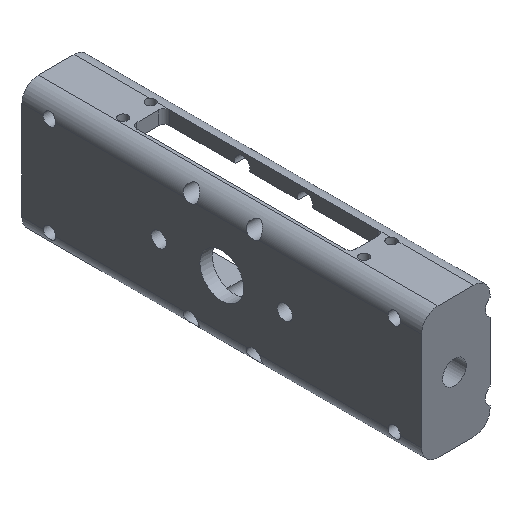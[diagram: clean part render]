
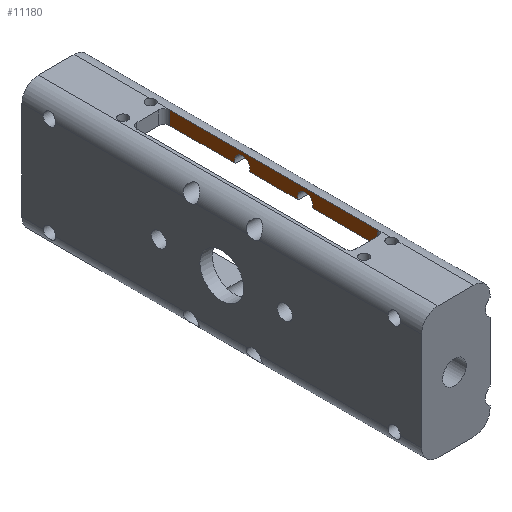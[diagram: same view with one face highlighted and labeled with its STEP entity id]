
A CAD part, isometric view. The second image highlights one B-rep face of the part: STEP entity #11180.
In plain terms, the highlighted planar face has unit normal (-1, 0, 0).
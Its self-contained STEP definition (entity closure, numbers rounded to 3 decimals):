
#876 = CYLINDRICAL_SURFACE('',#877,6.);
#877 = AXIS2_PLACEMENT_3D('',#878,#879,#880);
#878 = CARTESIAN_POINT('',(35.,-73.,18.));
#879 = DIRECTION('',(-0.,1.,0.));
#880 = DIRECTION('',(1.,0.,-0.));
#2562 = PLANE('',#2563);
#2563 = AXIS2_PLACEMENT_3D('',#2564,#2565,#2566);
#2564 = CARTESIAN_POINT('',(20.5,-63.,19.));
#2565 = DIRECTION('',(0.,0.,1.));
#2566 = DIRECTION('',(1.,0.,-0.));
#3738 = PLANE('',#3739);
#3739 = AXIS2_PLACEMENT_3D('',#3740,#3741,#3742);
#3740 = CARTESIAN_POINT('',(20.5,-63.,19.));
#3741 = DIRECTION('',(0.,0.,1.));
#3742 = DIRECTION('',(1.,0.,-0.));
#8088 = VERTEX_POINT('',#8089);
#8089 = CARTESIAN_POINT('',(35.,-38.,24.));
#8110 = EDGE_CURVE('',#8088,#8111,#8113,.T.);
#8111 = VERTEX_POINT('',#8112);
#8112 = CARTESIAN_POINT('',(35.,38.,24.));
#8113 = SURFACE_CURVE('',#8114,(#8118,#8125),.PCURVE_S1.);
#8114 = LINE('',#8115,#8116);
#8115 = CARTESIAN_POINT('',(35.,-73.,24.));
#8116 = VECTOR('',#8117,1.);
#8117 = DIRECTION('',(-0.,1.,0.));
#8118 = PCURVE('',#876,#8119);
#8119 = DEFINITIONAL_REPRESENTATION('',(#8120),#8124);
#8120 = LINE('',#8121,#8122);
#8121 = CARTESIAN_POINT('',(-1.571,0.));
#8122 = VECTOR('',#8123,1.);
#8123 = DIRECTION('',(-0.,1.));
#8124 = ( GEOMETRIC_REPRESENTATION_CONTEXT(2) 
PARAMETRIC_REPRESENTATION_CONTEXT() REPRESENTATION_CONTEXT('2D SPACE',''
  ) );
#8125 = PCURVE('',#8126,#8131);
#8126 = PLANE('',#8127);
#8127 = AXIS2_PLACEMENT_3D('',#8128,#8129,#8130);
#8128 = CARTESIAN_POINT('',(35.,-40.,17.5));
#8129 = DIRECTION('',(1.,0.,-0.));
#8130 = DIRECTION('',(0.,0.,1.));
#8131 = DEFINITIONAL_REPRESENTATION('',(#8132),#8136);
#8132 = LINE('',#8133,#8134);
#8133 = CARTESIAN_POINT('',(6.5,33.));
#8134 = VECTOR('',#8135,1.);
#8135 = DIRECTION('',(0.,-1.));
#8136 = ( GEOMETRIC_REPRESENTATION_CONTEXT(2) 
PARAMETRIC_REPRESENTATION_CONTEXT() REPRESENTATION_CONTEXT('2D SPACE',''
  ) );
#8525 = CYLINDRICAL_SURFACE('',#8526,2.75);
#8526 = AXIS2_PLACEMENT_3D('',#8527,#8528,#8529);
#8527 = CARTESIAN_POINT('',(13.,11.5,19.919));
#8528 = DIRECTION('',(1.,0.,0.));
#8529 = DIRECTION('',(0.,0.,-1.));
#8635 = PLANE('',#8636);
#8636 = AXIS2_PLACEMENT_3D('',#8637,#8638,#8639);
#8637 = CARTESIAN_POINT('',(20.5,-63.,19.));
#8638 = DIRECTION('',(0.,0.,1.));
#8639 = DIRECTION('',(1.,0.,-0.));
#8828 = CYLINDRICAL_SURFACE('',#8829,2.75);
#8829 = AXIS2_PLACEMENT_3D('',#8830,#8831,#8832);
#8830 = CARTESIAN_POINT('',(13.,-11.5,19.919));
#8831 = DIRECTION('',(1.,0.,0.));
#8832 = DIRECTION('',(0.,0.,-1.));
#8990 = CYLINDRICAL_SURFACE('',#8991,2.);
#8991 = AXIS2_PLACEMENT_3D('',#8992,#8993,#8994);
#8992 = CARTESIAN_POINT('',(33.,-38.,17.5));
#8993 = DIRECTION('',(0.,0.,1.));
#8994 = DIRECTION('',(1.,0.,-0.));
#9148 = CYLINDRICAL_SURFACE('',#9149,2.);
#9149 = AXIS2_PLACEMENT_3D('',#9150,#9151,#9152);
#9150 = CARTESIAN_POINT('',(33.,38.,17.5));
#9151 = DIRECTION('',(0.,0.,1.));
#9152 = DIRECTION('',(1.,0.,-0.));
#10182 = VERTEX_POINT('',#10183);
#10183 = CARTESIAN_POINT('',(35.,-14.092,19.));
#10202 = EDGE_CURVE('',#10203,#10182,#10205,.T.);
#10203 = VERTEX_POINT('',#10204);
#10204 = CARTESIAN_POINT('',(35.,-38.,19.));
#10205 = SURFACE_CURVE('',#10206,(#10210,#10216),.PCURVE_S1.);
#10206 = LINE('',#10207,#10208);
#10207 = CARTESIAN_POINT('',(35.,-51.5,19.));
#10208 = VECTOR('',#10209,1.);
#10209 = DIRECTION('',(-0.,1.,0.));
#10210 = PCURVE('',#2562,#10211);
#10211 = DEFINITIONAL_REPRESENTATION('',(#10212),#10215);
#10212 = B_SPLINE_CURVE_WITH_KNOTS('',1,(#10213,#10214),.UNSPECIFIED.,
  .F.,.F.,(2,2),(13.5,37.408),.PIECEWISE_BEZIER_KNOTS.);
#10213 = CARTESIAN_POINT('',(14.5,25.));
#10214 = CARTESIAN_POINT('',(14.5,48.908));
#10215 = ( GEOMETRIC_REPRESENTATION_CONTEXT(2) 
PARAMETRIC_REPRESENTATION_CONTEXT() REPRESENTATION_CONTEXT('2D SPACE',''
  ) );
#10216 = PCURVE('',#8126,#10217);
#10217 = DEFINITIONAL_REPRESENTATION('',(#10218),#10221);
#10218 = B_SPLINE_CURVE_WITH_KNOTS('',1,(#10219,#10220),.UNSPECIFIED.,
  .F.,.F.,(2,2),(13.5,37.408),.PIECEWISE_BEZIER_KNOTS.);
#10219 = CARTESIAN_POINT('',(1.5,-2.));
#10220 = CARTESIAN_POINT('',(1.5,-25.908));
#10221 = ( GEOMETRIC_REPRESENTATION_CONTEXT(2) 
PARAMETRIC_REPRESENTATION_CONTEXT() REPRESENTATION_CONTEXT('2D SPACE',''
  ) );
#10593 = VERTEX_POINT('',#10594);
#10594 = CARTESIAN_POINT('',(35.,38.,19.));
#10616 = EDGE_CURVE('',#10617,#10593,#10619,.T.);
#10617 = VERTEX_POINT('',#10618);
#10618 = CARTESIAN_POINT('',(35.,14.092,19.));
#10619 = SURFACE_CURVE('',#10620,(#10624,#10630),.PCURVE_S1.);
#10620 = LINE('',#10621,#10622);
#10621 = CARTESIAN_POINT('',(35.,-51.5,19.));
#10622 = VECTOR('',#10623,1.);
#10623 = DIRECTION('',(-0.,1.,0.));
#10624 = PCURVE('',#3738,#10625);
#10625 = DEFINITIONAL_REPRESENTATION('',(#10626),#10629);
#10626 = B_SPLINE_CURVE_WITH_KNOTS('',1,(#10627,#10628),.UNSPECIFIED.,
  .F.,.F.,(2,2),(65.592,89.5),.PIECEWISE_BEZIER_KNOTS.);
#10627 = CARTESIAN_POINT('',(14.5,77.092));
#10628 = CARTESIAN_POINT('',(14.5,101.));
#10629 = ( GEOMETRIC_REPRESENTATION_CONTEXT(2) 
PARAMETRIC_REPRESENTATION_CONTEXT() REPRESENTATION_CONTEXT('2D SPACE',''
  ) );
#10630 = PCURVE('',#8126,#10631);
#10631 = DEFINITIONAL_REPRESENTATION('',(#10632),#10635);
#10632 = B_SPLINE_CURVE_WITH_KNOTS('',1,(#10633,#10634),.UNSPECIFIED.,
  .F.,.F.,(2,2),(65.592,89.5),.PIECEWISE_BEZIER_KNOTS.);
#10633 = CARTESIAN_POINT('',(1.5,-54.092));
#10634 = CARTESIAN_POINT('',(1.5,-78.));
#10635 = ( GEOMETRIC_REPRESENTATION_CONTEXT(2) 
PARAMETRIC_REPRESENTATION_CONTEXT() REPRESENTATION_CONTEXT('2D SPACE',''
  ) );
#11035 = VERTEX_POINT('',#11036);
#11036 = CARTESIAN_POINT('',(35.,-8.908,19.));
#11055 = EDGE_CURVE('',#11035,#10182,#11056,.T.);
#11056 = SURFACE_CURVE('',#11057,(#11062,#11069),.PCURVE_S1.);
#11057 = CIRCLE('',#11058,2.75);
#11058 = AXIS2_PLACEMENT_3D('',#11059,#11060,#11061);
#11059 = CARTESIAN_POINT('',(35.,-11.5,19.919));
#11060 = DIRECTION('',(1.,0.,0.));
#11061 = DIRECTION('',(0.,0.,-1.));
#11062 = PCURVE('',#8828,#11063);
#11063 = DEFINITIONAL_REPRESENTATION('',(#11064),#11068);
#11064 = LINE('',#11065,#11066);
#11065 = CARTESIAN_POINT('',(0.,22.));
#11066 = VECTOR('',#11067,1.);
#11067 = DIRECTION('',(1.,0.));
#11068 = ( GEOMETRIC_REPRESENTATION_CONTEXT(2) 
PARAMETRIC_REPRESENTATION_CONTEXT() REPRESENTATION_CONTEXT('2D SPACE',''
  ) );
#11069 = PCURVE('',#8126,#11070);
#11070 = DEFINITIONAL_REPRESENTATION('',(#11071),#11075);
#11071 = CIRCLE('',#11072,2.75);
#11072 = AXIS2_PLACEMENT_2D('',#11073,#11074);
#11073 = CARTESIAN_POINT('',(2.419,-28.5));
#11074 = DIRECTION('',(-1.,0.));
#11075 = ( GEOMETRIC_REPRESENTATION_CONTEXT(2) 
PARAMETRIC_REPRESENTATION_CONTEXT() REPRESENTATION_CONTEXT('2D SPACE',''
  ) );
#11083 = VERTEX_POINT('',#11084);
#11084 = CARTESIAN_POINT('',(35.,8.908,19.));
#11103 = EDGE_CURVE('',#11035,#11083,#11104,.T.);
#11104 = SURFACE_CURVE('',#11105,(#11109,#11115),.PCURVE_S1.);
#11105 = LINE('',#11106,#11107);
#11106 = CARTESIAN_POINT('',(35.,-51.5,19.));
#11107 = VECTOR('',#11108,1.);
#11108 = DIRECTION('',(-0.,1.,0.));
#11109 = PCURVE('',#8635,#11110);
#11110 = DEFINITIONAL_REPRESENTATION('',(#11111),#11114);
#11111 = B_SPLINE_CURVE_WITH_KNOTS('',1,(#11112,#11113),.UNSPECIFIED.,
  .F.,.F.,(2,2),(42.592,60.408),
  .PIECEWISE_BEZIER_KNOTS.);
#11112 = CARTESIAN_POINT('',(14.5,54.092));
#11113 = CARTESIAN_POINT('',(14.5,71.908));
#11114 = ( GEOMETRIC_REPRESENTATION_CONTEXT(2) 
PARAMETRIC_REPRESENTATION_CONTEXT() REPRESENTATION_CONTEXT('2D SPACE',''
  ) );
#11115 = PCURVE('',#8126,#11116);
#11116 = DEFINITIONAL_REPRESENTATION('',(#11117),#11120);
#11117 = B_SPLINE_CURVE_WITH_KNOTS('',1,(#11118,#11119),.UNSPECIFIED.,
  .F.,.F.,(2,2),(42.592,60.408),
  .PIECEWISE_BEZIER_KNOTS.);
#11118 = CARTESIAN_POINT('',(1.5,-31.092));
#11119 = CARTESIAN_POINT('',(1.5,-48.908));
#11120 = ( GEOMETRIC_REPRESENTATION_CONTEXT(2) 
PARAMETRIC_REPRESENTATION_CONTEXT() REPRESENTATION_CONTEXT('2D SPACE',''
  ) );
#11128 = EDGE_CURVE('',#10617,#11083,#11129,.T.);
#11129 = SURFACE_CURVE('',#11130,(#11135,#11142),.PCURVE_S1.);
#11130 = CIRCLE('',#11131,2.75);
#11131 = AXIS2_PLACEMENT_3D('',#11132,#11133,#11134);
#11132 = CARTESIAN_POINT('',(35.,11.5,19.919));
#11133 = DIRECTION('',(1.,0.,0.));
#11134 = DIRECTION('',(0.,0.,-1.));
#11135 = PCURVE('',#8525,#11136);
#11136 = DEFINITIONAL_REPRESENTATION('',(#11137),#11141);
#11137 = LINE('',#11138,#11139);
#11138 = CARTESIAN_POINT('',(0.,22.));
#11139 = VECTOR('',#11140,1.);
#11140 = DIRECTION('',(1.,0.));
#11141 = ( GEOMETRIC_REPRESENTATION_CONTEXT(2) 
PARAMETRIC_REPRESENTATION_CONTEXT() REPRESENTATION_CONTEXT('2D SPACE',''
  ) );
#11142 = PCURVE('',#8126,#11143);
#11143 = DEFINITIONAL_REPRESENTATION('',(#11144),#11148);
#11144 = CIRCLE('',#11145,2.75);
#11145 = AXIS2_PLACEMENT_2D('',#11146,#11147);
#11146 = CARTESIAN_POINT('',(2.419,-51.5));
#11147 = DIRECTION('',(-1.,0.));
#11148 = ( GEOMETRIC_REPRESENTATION_CONTEXT(2) 
PARAMETRIC_REPRESENTATION_CONTEXT() REPRESENTATION_CONTEXT('2D SPACE',''
  ) );
#11180 = ADVANCED_FACE('',(#11181),#8126,.F.);
#11181 = FACE_BOUND('',#11182,.F.);
#11182 = EDGE_LOOP('',(#11183,#11184,#11205,#11206,#11207,#11208,#11209,
    #11210));
#11183 = ORIENTED_EDGE('',*,*,#8110,.F.);
#11184 = ORIENTED_EDGE('',*,*,#11185,.F.);
#11185 = EDGE_CURVE('',#10203,#8088,#11186,.T.);
#11186 = SURFACE_CURVE('',#11187,(#11191,#11198),.PCURVE_S1.);
#11187 = LINE('',#11188,#11189);
#11188 = CARTESIAN_POINT('',(35.,-38.,17.5));
#11189 = VECTOR('',#11190,1.);
#11190 = DIRECTION('',(0.,0.,1.));
#11191 = PCURVE('',#8126,#11192);
#11192 = DEFINITIONAL_REPRESENTATION('',(#11193),#11197);
#11193 = LINE('',#11194,#11195);
#11194 = CARTESIAN_POINT('',(0.,-2.));
#11195 = VECTOR('',#11196,1.);
#11196 = DIRECTION('',(1.,0.));
#11197 = ( GEOMETRIC_REPRESENTATION_CONTEXT(2) 
PARAMETRIC_REPRESENTATION_CONTEXT() REPRESENTATION_CONTEXT('2D SPACE',''
  ) );
#11198 = PCURVE('',#8990,#11199);
#11199 = DEFINITIONAL_REPRESENTATION('',(#11200),#11204);
#11200 = LINE('',#11201,#11202);
#11201 = CARTESIAN_POINT('',(-0.,0.));
#11202 = VECTOR('',#11203,1.);
#11203 = DIRECTION('',(-0.,1.));
#11204 = ( GEOMETRIC_REPRESENTATION_CONTEXT(2) 
PARAMETRIC_REPRESENTATION_CONTEXT() REPRESENTATION_CONTEXT('2D SPACE',''
  ) );
#11205 = ORIENTED_EDGE('',*,*,#10202,.T.);
#11206 = ORIENTED_EDGE('',*,*,#11055,.F.);
#11207 = ORIENTED_EDGE('',*,*,#11103,.T.);
#11208 = ORIENTED_EDGE('',*,*,#11128,.F.);
#11209 = ORIENTED_EDGE('',*,*,#10616,.T.);
#11210 = ORIENTED_EDGE('',*,*,#11211,.T.);
#11211 = EDGE_CURVE('',#10593,#8111,#11212,.T.);
#11212 = SURFACE_CURVE('',#11213,(#11217,#11224),.PCURVE_S1.);
#11213 = LINE('',#11214,#11215);
#11214 = CARTESIAN_POINT('',(35.,38.,17.5));
#11215 = VECTOR('',#11216,1.);
#11216 = DIRECTION('',(0.,0.,1.));
#11217 = PCURVE('',#8126,#11218);
#11218 = DEFINITIONAL_REPRESENTATION('',(#11219),#11223);
#11219 = LINE('',#11220,#11221);
#11220 = CARTESIAN_POINT('',(0.,-78.));
#11221 = VECTOR('',#11222,1.);
#11222 = DIRECTION('',(1.,0.));
#11223 = ( GEOMETRIC_REPRESENTATION_CONTEXT(2) 
PARAMETRIC_REPRESENTATION_CONTEXT() REPRESENTATION_CONTEXT('2D SPACE',''
  ) );
#11224 = PCURVE('',#9148,#11225);
#11225 = DEFINITIONAL_REPRESENTATION('',(#11226),#11230);
#11226 = LINE('',#11227,#11228);
#11227 = CARTESIAN_POINT('',(0.,0.));
#11228 = VECTOR('',#11229,1.);
#11229 = DIRECTION('',(0.,1.));
#11230 = ( GEOMETRIC_REPRESENTATION_CONTEXT(2) 
PARAMETRIC_REPRESENTATION_CONTEXT() REPRESENTATION_CONTEXT('2D SPACE',''
  ) );
